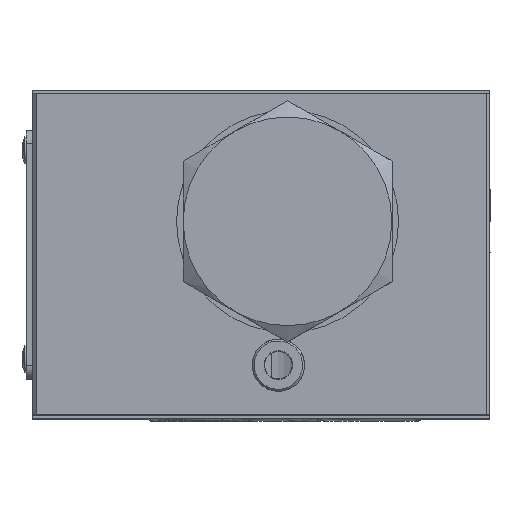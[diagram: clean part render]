
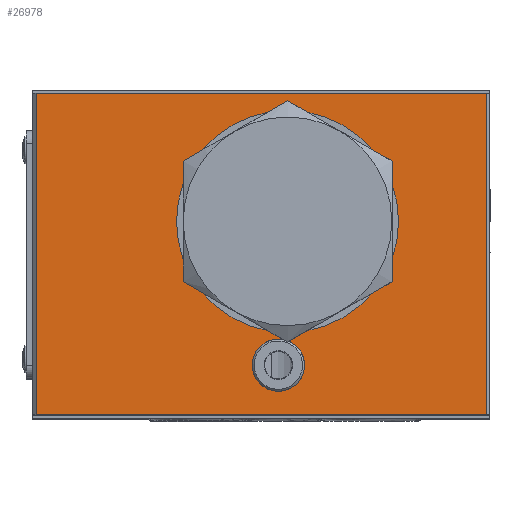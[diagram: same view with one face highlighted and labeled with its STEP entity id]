
A CAD part, top view. The second image highlights one B-rep face of the part: STEP entity #26978.
In plain terms, the highlighted planar face has unit normal (0, 0, 1).
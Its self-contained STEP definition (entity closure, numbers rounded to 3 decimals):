
#502 = VECTOR ( 'NONE', #47543, 1000. ) ;
#1291 = VECTOR ( 'NONE', #27835, 1000. ) ;
#1353 = VECTOR ( 'NONE', #24091, 1000. ) ;
#1383 = EDGE_LOOP ( 'NONE', ( #10803, #32337 ) ) ;
#2693 = CARTESIAN_POINT ( 'NONE',  ( -1.4, -17., 62.5 ) ) ;
#3046 = CARTESIAN_POINT ( 'NONE',  ( 34.5, 24.6, 62.5 ) ) ;
#5318 = DIRECTION ( 'NONE',  ( 0., 0., 1. ) ) ;
#6505 = LINE ( 'NONE', #23075, #1291 ) ;
#7328 = DIRECTION ( 'NONE',  ( 0., 0., 1. ) ) ;
#8571 = ORIENTED_EDGE ( 'NONE', *, *, #11928, .F. ) ;
#8650 = DIRECTION ( 'NONE',  ( 1., 0., 0. ) ) ;
#9144 = AXIS2_PLACEMENT_3D ( 'NONE', #19978, #53291, #29694 ) ;
#9279 = DIRECTION ( 'NONE',  ( 0., 0., 1. ) ) ;
#9951 = LINE ( 'NONE', #30155, #33781 ) ;
#10803 = ORIENTED_EDGE ( 'NONE', *, *, #13660, .F. ) ;
#11928 = EDGE_CURVE ( 'NONE', #24168, #30102, #43712, .T. ) ;
#13660 = EDGE_CURVE ( 'NONE', #39460, #49298, #33783, .T. ) ;
#14833 = EDGE_LOOP ( 'NONE', ( #33182, #20225, #8571, #26372 ) ) ;
#16518 = EDGE_CURVE ( 'NONE', #26660, #30102, #6505, .T. ) ;
#16987 = DIRECTION ( 'NONE',  ( 1., 0., 0. ) ) ;
#19978 = CARTESIAN_POINT ( 'NONE',  ( 4., 5., 62.5 ) ) ;
#20225 = ORIENTED_EDGE ( 'NONE', *, *, #16518, .T. ) ;
#22222 = FACE_OUTER_BOUND ( 'NONE', #14833, .T. ) ;
#23075 = CARTESIAN_POINT ( 'NONE',  ( 34.5, 24.6, 62.5 ) ) ;
#23679 = EDGE_CURVE ( 'NONE', #24168, #26638, #9951, .T. ) ;
#24091 = DIRECTION ( 'NONE',  ( -1., 0., 0. ) ) ;
#24168 = VERTEX_POINT ( 'NONE', #24301 ) ;
#24301 = CARTESIAN_POINT ( 'NONE',  ( -34.5, 24.6, 62.5 ) ) ;
#26372 = ORIENTED_EDGE ( 'NONE', *, *, #23679, .T. ) ;
#26638 = VERTEX_POINT ( 'NONE', #61043 ) ;
#26660 = VERTEX_POINT ( 'NONE', #32685 ) ;
#26688 = CARTESIAN_POINT ( 'NONE',  ( 6.6, -17., 62.5 ) ) ;
#26978 = ADVANCED_FACE ( 'NONE', ( #22222, #51887, #47450 ), #31769, .T. ) ;
#27835 = DIRECTION ( 'NONE',  ( 0., 1., 0. ) ) ;
#28093 = AXIS2_PLACEMENT_3D ( 'NONE', #60052, #7328, #16987 ) ;
#28449 = DIRECTION ( 'NONE',  ( 1., 0., 0. ) ) ;
#28464 = CARTESIAN_POINT ( 'NONE',  ( -35., 24.6, 62.5 ) ) ;
#28500 = ORIENTED_EDGE ( 'NONE', *, *, #34372, .F. ) ;
#28673 = DIRECTION ( 'NONE',  ( 1., 0., 0. ) ) ;
#29694 = DIRECTION ( 'NONE',  ( 1., 0., 0. ) ) ;
#30102 = VERTEX_POINT ( 'NONE', #3046 ) ;
#30155 = CARTESIAN_POINT ( 'NONE',  ( -34.5, -24.6, 62.5 ) ) ;
#31601 = EDGE_CURVE ( 'NONE', #26660, #26638, #40880, .T. ) ;
#31769 = PLANE ( 'NONE',  #59674 ) ;
#32337 = ORIENTED_EDGE ( 'NONE', *, *, #61112, .F. ) ;
#32685 = CARTESIAN_POINT ( 'NONE',  ( 34.5, -24.6, 62.5 ) ) ;
#33040 = CARTESIAN_POINT ( 'NONE',  ( 2.6, -17., 62.5 ) ) ;
#33182 = ORIENTED_EDGE ( 'NONE', *, *, #31601, .F. ) ;
#33781 = VECTOR ( 'NONE', #53342, 1000. ) ;
#33783 = CIRCLE ( 'NONE', #28093, 17. ) ;
#34080 = CARTESIAN_POINT ( 'NONE',  ( 2.6, -17., 62.5 ) ) ;
#34372 = EDGE_CURVE ( 'NONE', #37030, #38441, #60448, .T. ) ;
#35162 = EDGE_CURVE ( 'NONE', #38441, #37030, #43369, .T. ) ;
#37030 = VERTEX_POINT ( 'NONE', #26688 ) ;
#37978 = CARTESIAN_POINT ( 'NONE',  ( -13., 5., 62.5 ) ) ;
#38410 = DIRECTION ( 'NONE',  ( 0., 0., 1. ) ) ;
#38441 = VERTEX_POINT ( 'NONE', #2693 ) ;
#39460 = VERTEX_POINT ( 'NONE', #52844 ) ;
#40880 = LINE ( 'NONE', #42396, #1353 ) ;
#41105 = ORIENTED_EDGE ( 'NONE', *, *, #35162, .F. ) ;
#42396 = CARTESIAN_POINT ( 'NONE',  ( 35., -24.6, 62.5 ) ) ;
#43369 = CIRCLE ( 'NONE', #49933, 4. ) ;
#43712 = LINE ( 'NONE', #28464, #502 ) ;
#47450 = FACE_BOUND ( 'NONE', #1383, .T. ) ;
#47499 = CARTESIAN_POINT ( 'NONE',  ( -35., -25.1, 62.5 ) ) ;
#47543 = DIRECTION ( 'NONE',  ( 1., 0., 0. ) ) ;
#49298 = VERTEX_POINT ( 'NONE', #37978 ) ;
#49933 = AXIS2_PLACEMENT_3D ( 'NONE', #33040, #38410, #28449 ) ;
#50793 = CIRCLE ( 'NONE', #9144, 17. ) ;
#51887 = FACE_BOUND ( 'NONE', #52850, .T. ) ;
#52638 = AXIS2_PLACEMENT_3D ( 'NONE', #34080, #5318, #28673 ) ;
#52844 = CARTESIAN_POINT ( 'NONE',  ( 21., 5., 62.5 ) ) ;
#52850 = EDGE_LOOP ( 'NONE', ( #28500, #41105 ) ) ;
#53291 = DIRECTION ( 'NONE',  ( 0., 0., 1. ) ) ;
#53342 = DIRECTION ( 'NONE',  ( 0., -1., 0. ) ) ;
#59674 = AXIS2_PLACEMENT_3D ( 'NONE', #47499, #9279, #8650 ) ;
#60052 = CARTESIAN_POINT ( 'NONE',  ( 4., 5., 62.5 ) ) ;
#60448 = CIRCLE ( 'NONE', #52638, 4. ) ;
#61043 = CARTESIAN_POINT ( 'NONE',  ( -34.5, -24.6, 62.5 ) ) ;
#61112 = EDGE_CURVE ( 'NONE', #49298, #39460, #50793, .T. ) ;
